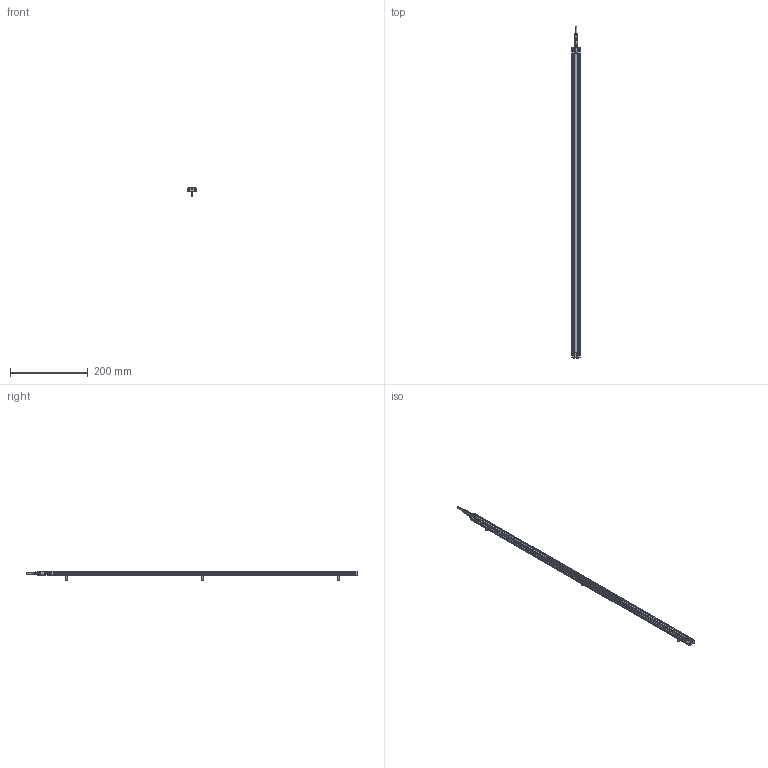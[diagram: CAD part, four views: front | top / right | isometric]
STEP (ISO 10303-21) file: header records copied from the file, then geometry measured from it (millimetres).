
FILE_DESCRIPTION (( 'STEP AP214' ), '1' );
FILE_NAME ('ILGA-B-K2-0800mm.STEP', '2026-04-24T22:55:18', ( '' ), ( '' ), 'SwSTEP 2.0', 'SolidWorks 2025', '' );
FILE_SCHEMA (( 'AUTOMOTIVE_DESIGN' ));
Length unit declared in the file: millimetre
Products named in the file (1): ILGA-B-K2-0800mm
Bounding box: 22.4 x 854.5 x 25.7 mm (x, y, z)
Surface area: 111918.8 mm2 (no closed solid volume)
Topology: 0 solids, 16 shells, 966 faces, 2516 edges, 1561 vertices
Faces by surface type: cylinder 399, plane 361, cone 84, bspline 56, torus 50, sphere 16
Entity records: 42561 total; most frequent: CARTESIAN_POINT 8657, ORIENTED_EDGE 4913, DIRECTION 4852, EDGE_CURVE 2464, AXIS2_PLACEMENT_3D 1860, VERTEX_POINT 1561, LINE 1132, VECTOR 1132
